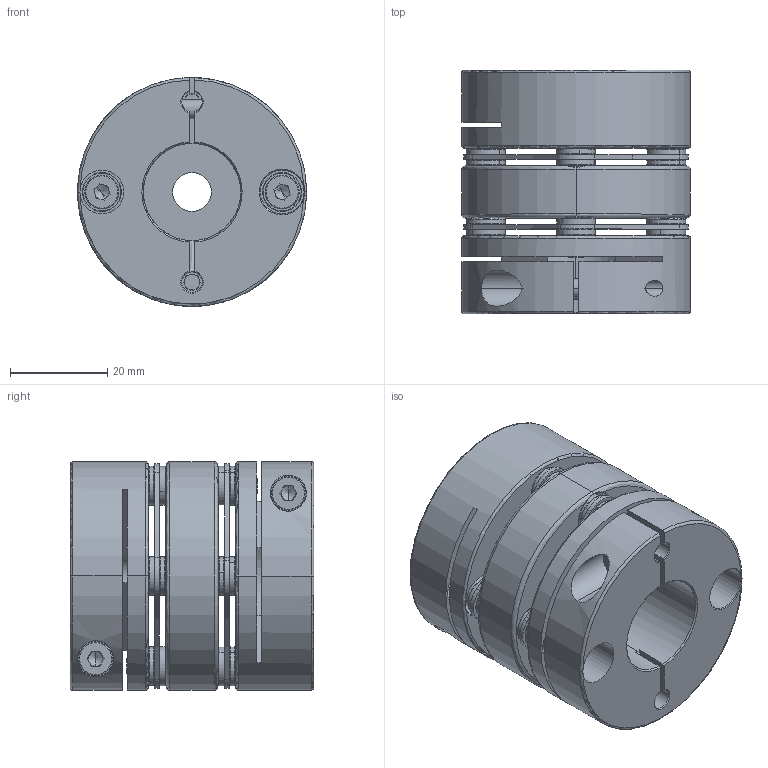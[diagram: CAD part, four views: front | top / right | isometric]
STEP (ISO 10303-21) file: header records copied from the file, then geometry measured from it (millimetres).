
FILE_DESCRIPTION (( 'STEP AP203' ), '1' );
FILE_NAME ('SDWC-47C-8X20_203.STEP', '2013-02-13T03:51:49', ( '' ), ( '' ), 'SwSTEP 2.0', 'SolidWorks 2012', '' );
FILE_SCHEMA (( 'CONFIG_CONTROL_DESIGN' ));
Length unit declared in the file: millimetre
Products named in the file (1): SDWC-47C-8X20_203
Bounding box: 47 x 49.98 x 47 mm (x, y, z)
Volume: 58654.3 mm3; surface area: 29100.3 mm2
Topology: 1 solids, 19 shells, 778 faces, 1806 edges, 1074 vertices
Faces by surface type: cylinder 256, plane 222, torus 202, cone 94, bspline 4
Entity records: 22923 total; most frequent: CARTESIAN_POINT 4501, DIRECTION 4304, ORIENTED_EDGE 3572, AXIS2_PLACEMENT_3D 1829, EDGE_CURVE 1786, VERTEX_POINT 1074, CIRCLE 1054, EDGE_LOOP 876
